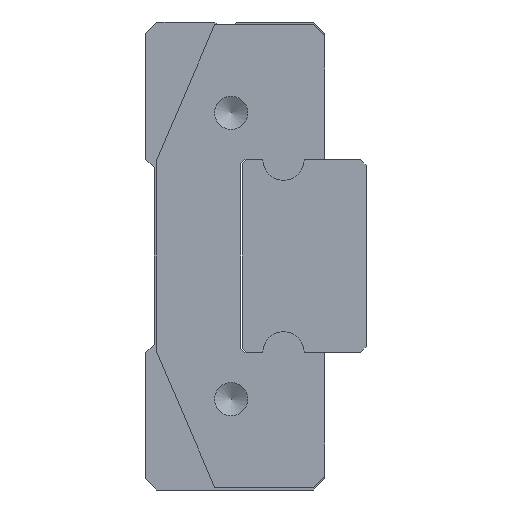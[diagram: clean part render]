
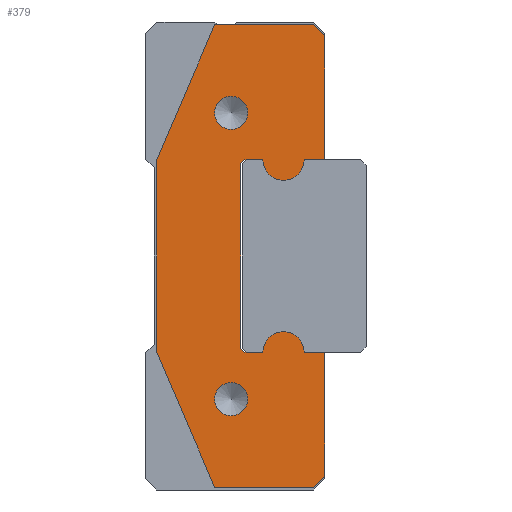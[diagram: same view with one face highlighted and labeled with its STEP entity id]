
A CAD part, left-side view. The second image highlights one B-rep face of the part: STEP entity #379.
In plain terms, the highlighted planar face has unit normal (-1, 0, 0) as drawn and (0, 0, 1) by its records, which use the part's own axes.
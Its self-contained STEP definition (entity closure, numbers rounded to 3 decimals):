
#379 = ADVANCED_FACE( '', ( #762, #763, #764 ), #765, .T. );
#762 = FACE_BOUND( '', #1122, .T. );
#763 = FACE_BOUND( '', #1123, .T. );
#764 = FACE_OUTER_BOUND( '', #1124, .T. );
#765 = PLANE( '', #1125 );
#1122 = EDGE_LOOP( '', ( #1905 ) );
#1123 = EDGE_LOOP( '', ( #1906 ) );
#1124 = EDGE_LOOP( '', ( #1907, #1908, #1909, #1910, #1911, #1912, #1913, #1914, #1915, #1916, #1917, #1918, #1919, #1920, #1921, #1922, #1923, #1924 ) );
#1125 = AXIS2_PLACEMENT_3D( '', #1925, #1926, #1927 );
#1905 = ORIENTED_EDGE( '', *, *, #2162, .F. );
#1906 = ORIENTED_EDGE( '', *, *, #2177, .F. );
#1907 = ORIENTED_EDGE( '', *, *, #2169, .T. );
#1908 = ORIENTED_EDGE( '', *, *, #2196, .T. );
#1909 = ORIENTED_EDGE( '', *, *, #2036, .T. );
#1910 = ORIENTED_EDGE( '', *, *, #2175, .T. );
#1911 = ORIENTED_EDGE( '', *, *, #1993, .T. );
#1912 = ORIENTED_EDGE( '', *, *, #2212, .T. );
#1913 = ORIENTED_EDGE( '', *, *, #2071, .T. );
#1914 = ORIENTED_EDGE( '', *, *, #2126, .T. );
#1915 = ORIENTED_EDGE( '', *, *, #2210, .T. );
#1916 = ORIENTED_EDGE( '', *, *, #2188, .T. );
#1917 = ORIENTED_EDGE( '', *, *, #2215, .T. );
#1918 = ORIENTED_EDGE( '', *, *, #2076, .T. );
#1919 = ORIENTED_EDGE( '', *, *, #2041, .T. );
#1920 = ORIENTED_EDGE( '', *, *, #2221, .T. );
#1921 = ORIENTED_EDGE( '', *, *, #2135, .T. );
#1922 = ORIENTED_EDGE( '', *, *, #2150, .T. );
#1923 = ORIENTED_EDGE( '', *, *, #2244, .T. );
#1924 = ORIENTED_EDGE( '', *, *, #2225, .T. );
#1925 = CARTESIAN_POINT( '', ( -3.5, 1.5, 0. ) );
#1926 = DIRECTION( '', ( 0., 0., 1. ) );
#1927 = DIRECTION( '', ( 1., 0., 0. ) );
#1993 = EDGE_CURVE( '', #2334, #2335, #2336, .T. );
#2036 = EDGE_CURVE( '', #2406, #2407, #2408, .T. );
#2041 = EDGE_CURVE( '', #2415, #2416, #2417, .T. );
#2071 = EDGE_CURVE( '', #2462, #2463, #2464, .T. );
#2076 = EDGE_CURVE( '', #2471, #2415, #2472, .T. );
#2126 = EDGE_CURVE( '', #2463, #2550, #2551, .T. );
#2135 = EDGE_CURVE( '', #2562, #2563, #2564, .T. );
#2150 = EDGE_CURVE( '', #2563, #2583, #2584, .T. );
#2162 = EDGE_CURVE( '', #2598, #2598, #2599, .T. );
#2169 = EDGE_CURVE( '', #2606, #2607, #2608, .T. );
#2175 = EDGE_CURVE( '', #2407, #2334, #2613, .T. );
#2177 = EDGE_CURVE( '', #2615, #2615, #2616, .T. );
#2188 = EDGE_CURVE( '', #2631, #2632, #2633, .T. );
#2196 = EDGE_CURVE( '', #2607, #2406, #2643, .T. );
#2210 = EDGE_CURVE( '', #2550, #2631, #2662, .T. );
#2212 = EDGE_CURVE( '', #2335, #2462, #2664, .T. );
#2215 = EDGE_CURVE( '', #2632, #2471, #2667, .T. );
#2221 = EDGE_CURVE( '', #2416, #2562, #2674, .T. );
#2225 = EDGE_CURVE( '', #2678, #2606, #2679, .T. );
#2244 = EDGE_CURVE( '', #2583, #2678, #2696, .T. );
#2334 = VERTEX_POINT( '', #2804 );
#2335 = VERTEX_POINT( '', #2805 );
#2336 = CIRCLE( '', #2806, 0.75 );
#2406 = VERTEX_POINT( '', #2897 );
#2407 = VERTEX_POINT( '', #2898 );
#2408 = LINE( '', #2899, #2900 );
#2415 = VERTEX_POINT( '', #2910 );
#2416 = VERTEX_POINT( '', #2911 );
#2417 = LINE( '', #2912, #2913 );
#2462 = VERTEX_POINT( '', #2976 );
#2463 = VERTEX_POINT( '', #2977 );
#2464 = LINE( '', #2978, #2979 );
#2471 = VERTEX_POINT( '', #2989 );
#2472 = LINE( '', #2990, #2991 );
#2550 = VERTEX_POINT( '', #3100 );
#2551 = LINE( '', #3101, #3102 );
#2562 = VERTEX_POINT( '', #3115 );
#2563 = VERTEX_POINT( '', #3116 );
#2564 = LINE( '', #3117, #3118 );
#2583 = VERTEX_POINT( '', #3144 );
#2584 = LINE( '', #3145, #3146 );
#2598 = VERTEX_POINT( '', #3161 );
#2599 = CIRCLE( '', #3162, 0.6 );
#2606 = VERTEX_POINT( '', #3171 );
#2607 = VERTEX_POINT( '', #3172 );
#2608 = LINE( '', #3173, #3174 );
#2613 = LINE( '', #3181, #3182 );
#2615 = VERTEX_POINT( '', #3184 );
#2616 = CIRCLE( '', #3185, 0.6 );
#2631 = VERTEX_POINT( '', #3204 );
#2632 = VERTEX_POINT( '', #3205 );
#2633 = LINE( '', #3206, #3207 );
#2643 = LINE( '', #3222, #3223 );
#2662 = LINE( '', #3250, #3251 );
#2664 = LINE( '', #3253, #3254 );
#2667 = CIRCLE( '', #3257, 0.75 );
#2674 = LINE( '', #3266, #3267 );
#2678 = VERTEX_POINT( '', #3272 );
#2679 = LINE( '', #3273, #3274 );
#2696 = LINE( '', #3294, #3295 );
#2804 = CARTESIAN_POINT( '', ( -3.5, 0.75, 0. ) );
#2805 = CARTESIAN_POINT( '', ( -3.5, 2.25, 0. ) );
#2806 = AXIS2_PLACEMENT_3D( '', #3367, #3368, #3369 );
#2897 = CARTESIAN_POINT( '', ( -8., 0., 0. ) );
#2898 = CARTESIAN_POINT( '', ( -3.5, 0., 0. ) );
#2899 = CARTESIAN_POINT( '', ( -8., 0., 0. ) );
#2900 = VECTOR( '', #3421, 1000. );
#2910 = CARTESIAN_POINT( '', ( 3.5, 0., 0. ) );
#2911 = CARTESIAN_POINT( '', ( 8., 0., 0. ) );
#2912 = CARTESIAN_POINT( '', ( 3.5, 0., 0. ) );
#2913 = VECTOR( '', #3425, 1000. );
#2976 = CARTESIAN_POINT( '', ( -3.5, 2.9, 0. ) );
#2977 = CARTESIAN_POINT( '', ( -3.35, 3.05, 0. ) );
#2978 = CARTESIAN_POINT( '', ( -3.5, 2.9, 0. ) );
#2979 = VECTOR( '', #3462, 1000. );
#2989 = CARTESIAN_POINT( '', ( 3.5, 0.75, 0. ) );
#2990 = CARTESIAN_POINT( '', ( 3.5, 0.75, 0. ) );
#2991 = VECTOR( '', #3466, 1000. );
#3100 = CARTESIAN_POINT( '', ( 3.35, 3.05, 0. ) );
#3101 = CARTESIAN_POINT( '', ( -3.35, 3.05, 0. ) );
#3102 = VECTOR( '', #3528, 1000. );
#3115 = CARTESIAN_POINT( '', ( 8.4, 0.4, 0. ) );
#3116 = CARTESIAN_POINT( '', ( 8.4, 4., 0. ) );
#3117 = CARTESIAN_POINT( '', ( 8.4, 0.4, 0. ) );
#3118 = VECTOR( '', #3537, 1000. );
#3144 = CARTESIAN_POINT( '', ( 3.5, 6.1, 0. ) );
#3145 = CARTESIAN_POINT( '', ( 8.4, 4., 0. ) );
#3146 = VECTOR( '', #3548, 1000. );
#3161 = CARTESIAN_POINT( '', ( -4.6, 3.4, 0. ) );
#3162 = AXIS2_PLACEMENT_3D( '', #3559, #3560, #3561 );
#3171 = CARTESIAN_POINT( '', ( -8.4, 4., 0. ) );
#3172 = CARTESIAN_POINT( '', ( -8.4, 0.4, 0. ) );
#3173 = CARTESIAN_POINT( '', ( -8.4, 4., 0. ) );
#3174 = VECTOR( '', #3564, 1000. );
#3181 = CARTESIAN_POINT( '', ( -3.5, 0., 0. ) );
#3182 = VECTOR( '', #3567, 1000. );
#3184 = CARTESIAN_POINT( '', ( 5.8, 3.4, 0. ) );
#3185 = AXIS2_PLACEMENT_3D( '', #3568, #3569, #3570 );
#3204 = CARTESIAN_POINT( '', ( 3.5, 2.9, 0. ) );
#3205 = CARTESIAN_POINT( '', ( 3.5, 2.25, 0. ) );
#3206 = CARTESIAN_POINT( '', ( 3.5, 2.9, 0. ) );
#3207 = VECTOR( '', #3581, 1000. );
#3222 = CARTESIAN_POINT( '', ( -8.4, 0.4, 0. ) );
#3223 = VECTOR( '', #3587, 1000. );
#3250 = CARTESIAN_POINT( '', ( 3.35, 3.05, 0. ) );
#3251 = VECTOR( '', #3599, 1000. );
#3253 = CARTESIAN_POINT( '', ( -3.5, 2.25, 0. ) );
#3254 = VECTOR( '', #3600, 1000. );
#3257 = AXIS2_PLACEMENT_3D( '', #3601, #3602, #3603 );
#3266 = CARTESIAN_POINT( '', ( 8., 0., 0. ) );
#3267 = VECTOR( '', #3606, 1000. );
#3272 = CARTESIAN_POINT( '', ( -3.5, 6.1, 0. ) );
#3273 = CARTESIAN_POINT( '', ( -3.5, 6.1, 0. ) );
#3274 = VECTOR( '', #3608, 1000. );
#3294 = CARTESIAN_POINT( '', ( 3.5, 6.1, 0. ) );
#3295 = VECTOR( '', #3615, 1000. );
#3367 = CARTESIAN_POINT( '', ( -3.5, 1.5, 0. ) );
#3368 = DIRECTION( '', ( 0., 0., 1. ) );
#3369 = DIRECTION( '', ( 1., 0., 0. ) );
#3421 = DIRECTION( '', ( 1., 0., 0. ) );
#3425 = DIRECTION( '', ( 1., 0., 0. ) );
#3462 = DIRECTION( '', ( 0.707, 0.707, 0. ) );
#3466 = DIRECTION( '', ( 0., -1., 0. ) );
#3528 = DIRECTION( '', ( 1., 0., 0. ) );
#3537 = DIRECTION( '', ( 0., 1., 0. ) );
#3548 = DIRECTION( '', ( -0.919, 0.394, 0. ) );
#3559 = CARTESIAN_POINT( '', ( -5.2, 3.4, 0. ) );
#3560 = DIRECTION( '', ( 0., 0., 1. ) );
#3561 = DIRECTION( '', ( 1., 0., 0. ) );
#3564 = DIRECTION( '', ( 0., -1., 0. ) );
#3567 = DIRECTION( '', ( 0., 1., 0. ) );
#3568 = CARTESIAN_POINT( '', ( 5.2, 3.4, 0. ) );
#3569 = DIRECTION( '', ( 0., 0., 1. ) );
#3570 = DIRECTION( '', ( 1., 0., 0. ) );
#3581 = DIRECTION( '', ( 0., -1., 0. ) );
#3587 = DIRECTION( '', ( 0.707, -0.707, 0. ) );
#3599 = DIRECTION( '', ( 0.707, -0.707, 0. ) );
#3600 = DIRECTION( '', ( 0., 1., 0. ) );
#3601 = CARTESIAN_POINT( '', ( 3.5, 1.5, 0. ) );
#3602 = DIRECTION( '', ( 0., 0., 1. ) );
#3603 = DIRECTION( '', ( 1., 0., 0. ) );
#3606 = DIRECTION( '', ( 0.707, 0.707, 0. ) );
#3608 = DIRECTION( '', ( -0.919, -0.394, 0. ) );
#3615 = DIRECTION( '', ( -1., 0., 0. ) );
